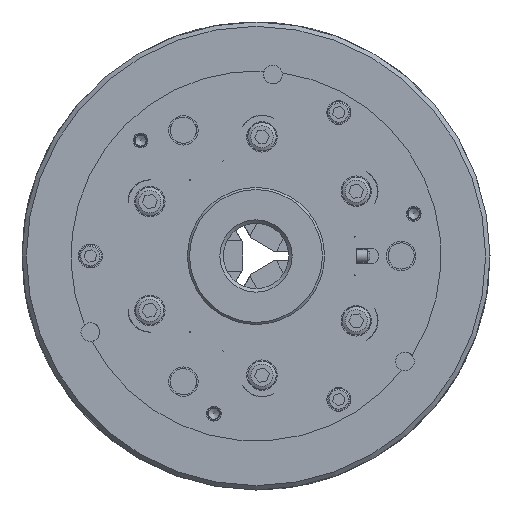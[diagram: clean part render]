
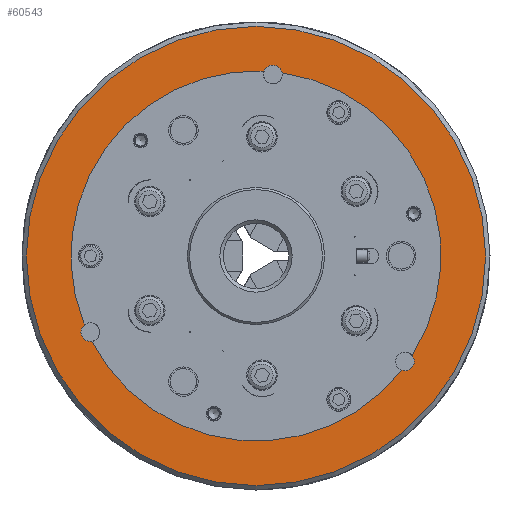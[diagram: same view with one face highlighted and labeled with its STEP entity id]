
A CAD part, left-side view. The second image highlights one B-rep face of the part: STEP entity #60543.
In plain terms, the highlighted planar face has unit normal (-1, 0, 0).
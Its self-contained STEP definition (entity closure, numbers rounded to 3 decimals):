
#98 = VERTEX_POINT ( 'NONE', #51961 ) ;
#1145 = DIRECTION ( 'NONE',  ( 0., 0., -1. ) ) ;
#2298 = AXIS2_PLACEMENT_3D ( 'NONE', #13164, #68562, #13886 ) ;
#3375 = CARTESIAN_POINT ( 'NONE',  ( -100., 0., -105.5 ) ) ;
#4193 = ORIENTED_EDGE ( 'NONE', *, *, #48083, .T. ) ;
#4991 = PLANE ( 'NONE',  #39760 ) ;
#6542 = VERTEX_POINT ( 'NONE', #40747 ) ;
#8218 = CARTESIAN_POINT ( 'NONE',  ( -100., -71.685, -45.676 ) ) ;
#8232 = DIRECTION ( 'NONE',  ( 0., 0., -1. ) ) ;
#8394 = CIRCLE ( 'NONE', #44077, 105.5 ) ;
#9792 = CARTESIAN_POINT ( 'NONE',  ( -100., 78.865, -31.707 ) ) ;
#9877 = EDGE_CURVE ( 'NONE', #69125, #59892, #36776, .T. ) ;
#10272 = DIRECTION ( 'NONE',  ( 0., 0., 1. ) ) ;
#11162 = EDGE_LOOP ( 'NONE', ( #61079 ) ) ;
#11395 = EDGE_CURVE ( 'NONE', #39796, #59892, #47000, .T. ) ;
#12414 = CARTESIAN_POINT ( 'NONE',  ( -100., -11.974, 84.152 ) ) ;
#12453 = DIRECTION ( 'NONE',  ( 0., 0., -1. ) ) ;
#12709 = CARTESIAN_POINT ( 'NONE',  ( -100., 0., 0. ) ) ;
#13164 = CARTESIAN_POINT ( 'NONE',  ( -100., 76.1, -35. ) ) ;
#13536 = CARTESIAN_POINT ( 'NONE',  ( -100., 0., 0. ) ) ;
#13732 = ORIENTED_EDGE ( 'NONE', *, *, #25657, .T. ) ;
#13886 = DIRECTION ( 'NONE',  ( 0., 0., 1. ) ) ;
#14842 = FACE_BOUND ( 'NONE', #55719, .T. ) ;
#18288 = DIRECTION ( 'NONE',  ( 1., 0., 0. ) ) ;
#19100 = DIRECTION ( 'NONE',  ( 1., 0., 0. ) ) ;
#23184 = DIRECTION ( 'NONE',  ( 0., 0., 1. ) ) ;
#25657 = EDGE_CURVE ( 'NONE', #69125, #6542, #48006, .T. ) ;
#25672 = CARTESIAN_POINT ( 'NONE',  ( -100., 0., 0. ) ) ;
#25674 = CARTESIAN_POINT ( 'NONE',  ( -100., -68.361, -48.405 ) ) ;
#29437 = CARTESIAN_POINT ( 'NONE',  ( -100., 0., 0. ) ) ;
#30571 = CARTESIAN_POINT ( 'NONE',  ( -100., -66.891, -52.446 ) ) ;
#31675 = AXIS2_PLACEMENT_3D ( 'NONE', #13536, #19100, #8232 ) ;
#32927 = AXIS2_PLACEMENT_3D ( 'NONE', #25674, #58771, #36733 ) ;
#36733 = DIRECTION ( 'NONE',  ( 0., 0., 1. ) ) ;
#36776 = CIRCLE ( 'NONE', #32927, 4.3 ) ;
#39514 = VERTEX_POINT ( 'NONE', #9792 ) ;
#39760 = AXIS2_PLACEMENT_3D ( 'NONE', #64960, #43630, #10272 ) ;
#39796 = VERTEX_POINT ( 'NONE', #12414 ) ;
#40747 = CARTESIAN_POINT ( 'NONE',  ( -100., 75.399, -39.242 ) ) ;
#43630 = DIRECTION ( 'NONE',  ( -1., 0., 0. ) ) ;
#44077 = AXIS2_PLACEMENT_3D ( 'NONE', #29437, #62768, #12453 ) ;
#45064 = EDGE_CURVE ( 'NONE', #68222, #68222, #8394, .T. ) ;
#45187 = FACE_OUTER_BOUND ( 'NONE', #11162, .T. ) ;
#45877 = DIRECTION ( 'NONE',  ( -1., 0., 0. ) ) ;
#46861 = CIRCLE ( 'NONE', #63678, 85. ) ;
#47000 = CIRCLE ( 'NONE', #31675, 85. ) ;
#48006 = CIRCLE ( 'NONE', #49603, 85. ) ;
#48083 = EDGE_CURVE ( 'NONE', #39514, #98, #46861, .T. ) ;
#48630 = CIRCLE ( 'NONE', #2298, 4.3 ) ;
#48802 = ORIENTED_EDGE ( 'NONE', *, *, #11395, .T. ) ;
#49603 = AXIS2_PLACEMENT_3D ( 'NONE', #12709, #18288, #1145 ) ;
#51127 = EDGE_CURVE ( 'NONE', #39796, #98, #55804, .T. ) ;
#51459 = CARTESIAN_POINT ( 'NONE',  ( -100., -7.739, 83.405 ) ) ;
#51961 = CARTESIAN_POINT ( 'NONE',  ( -100., -3.715, 84.919 ) ) ;
#54062 = AXIS2_PLACEMENT_3D ( 'NONE', #51459, #45877, #23184 ) ;
#55719 = EDGE_LOOP ( 'NONE', ( #62653, #48802, #64497, #13732, #70012, #4193 ) ) ;
#55804 = CIRCLE ( 'NONE', #54062, 4.3 ) ;
#58056 = DIRECTION ( 'NONE',  ( 1., 0., 0. ) ) ;
#58771 = DIRECTION ( 'NONE',  ( -1., 0., 0. ) ) ;
#59892 = VERTEX_POINT ( 'NONE', #8218 ) ;
#60543 = ADVANCED_FACE ( 'NONE', ( #14842, #45187 ), #4991, .T. ) ;
#61079 = ORIENTED_EDGE ( 'NONE', *, *, #45064, .F. ) ;
#62193 = EDGE_CURVE ( 'NONE', #39514, #6542, #48630, .T. ) ;
#62653 = ORIENTED_EDGE ( 'NONE', *, *, #51127, .F. ) ;
#62768 = DIRECTION ( 'NONE',  ( 1., 0., 0. ) ) ;
#63610 = DIRECTION ( 'NONE',  ( 0., 0., -1. ) ) ;
#63678 = AXIS2_PLACEMENT_3D ( 'NONE', #25672, #58056, #63610 ) ;
#64497 = ORIENTED_EDGE ( 'NONE', *, *, #9877, .F. ) ;
#64960 = CARTESIAN_POINT ( 'NONE',  ( -100., 52.75, -91.366 ) ) ;
#68222 = VERTEX_POINT ( 'NONE', #3375 ) ;
#68562 = DIRECTION ( 'NONE',  ( -1., 0., 0. ) ) ;
#69125 = VERTEX_POINT ( 'NONE', #30571 ) ;
#70012 = ORIENTED_EDGE ( 'NONE', *, *, #62193, .F. ) ;
